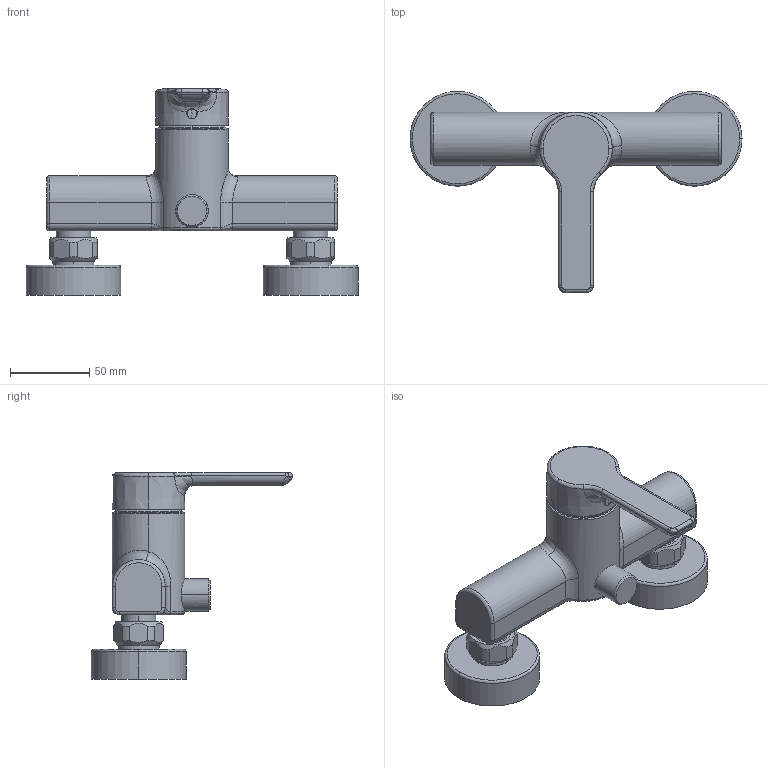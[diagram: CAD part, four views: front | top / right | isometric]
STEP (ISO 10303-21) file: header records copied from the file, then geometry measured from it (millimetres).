
FILE_DESCRIPTION((''),'2;1');
FILE_NAME('509431_AD150_SW0001','2022-02-09T13:53:25',('LF994'),(''),'CREO PARAMETRIC BY PTC INC, 2018500','CREO PARAMETRIC BY PTC INC, 2018500','');
FILE_SCHEMA(('CONFIG_CONTROL_DESIGN'));
Length unit declared in the file: millimetre
Products named in the file (1): 509431_AD150_SW0001
Bounding box: 210 x 127.51 x 130.73 mm (x, y, z)
Volume: 450684.3 mm3; surface area: 60557.3 mm2
Topology: 1 solids, 3 shells, 178 faces, 408 edges, 246 vertices
Faces by surface type: cylinder 58, plane 36, bspline 34, torus 22, cone 20, sphere 6, extrusion 2
Entity records: 9434 total; most frequent: CARTESIAN_POINT 5580, ORIENTED_EDGE 812, DIRECTION 776, EDGE_CURVE 406, AXIS2_PLACEMENT_3D 334, VERTEX_POINT 246, EDGE_LOOP 194, CIRCLE 192
